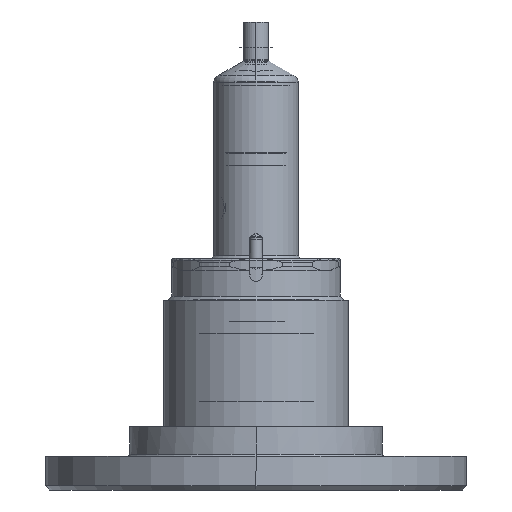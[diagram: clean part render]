
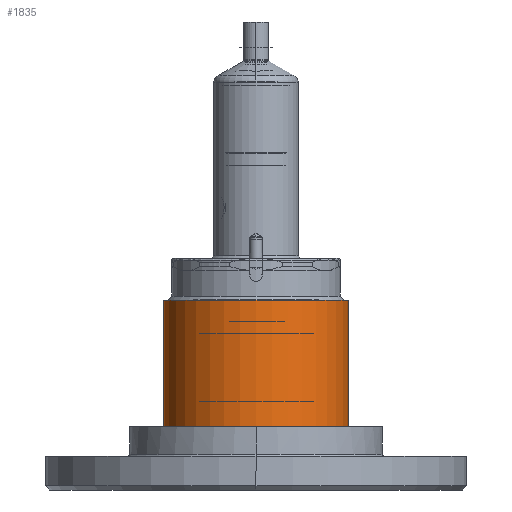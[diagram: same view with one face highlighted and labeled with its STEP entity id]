
A CAD part, front view. The second image highlights one B-rep face of the part: STEP entity #1835.
In plain terms, the highlighted cylindrical face has radius 22 mm (diameter 44 mm), a partial arc.
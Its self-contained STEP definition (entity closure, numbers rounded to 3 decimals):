
#125 = CYLINDRICAL_SURFACE ( 'NONE', #14751, 22. ) ;
#309 = DIRECTION ( 'NONE',  ( 0., 0., 1. ) ) ;
#598 = ORIENTED_EDGE ( 'NONE', *, *, #14994, .F. ) ;
#1673 = CARTESIAN_POINT ( 'NONE',  ( -22., 0., 47.584 ) ) ;
#1835 = ADVANCED_FACE ( 'NONE', ( #6823 ), #125, .T. ) ;
#1847 = EDGE_CURVE ( 'NONE', #6315, #3362, #18291, .T. ) ;
#2058 = DIRECTION ( 'NONE',  ( 1., 0., 0. ) ) ;
#3362 = VERTEX_POINT ( 'NONE', #11502 ) ;
#3529 = AXIS2_PLACEMENT_3D ( 'NONE', #14024, #7993, #2058 ) ;
#4013 = CARTESIAN_POINT ( 'NONE',  ( 0., 0., 30. ) ) ;
#4062 = EDGE_CURVE ( 'NONE', #14630, #3362, #13783, .T. ) ;
#4760 = VECTOR ( 'NONE', #10253, 1000. ) ;
#5045 = CARTESIAN_POINT ( 'NONE',  ( -22., 0., 0. ) ) ;
#6047 = AXIS2_PLACEMENT_3D ( 'NONE', #4013, #6917, #15932 ) ;
#6315 = VERTEX_POINT ( 'NONE', #17145 ) ;
#6823 = FACE_OUTER_BOUND ( 'NONE', #8965, .T. ) ;
#6917 = DIRECTION ( 'NONE',  ( 0., 0., 1. ) ) ;
#7307 = CARTESIAN_POINT ( 'NONE',  ( 22., 0., 47.584 ) ) ;
#7993 = DIRECTION ( 'NONE',  ( 0., 0., 1. ) ) ;
#8432 = CARTESIAN_POINT ( 'NONE',  ( 0., 0., 47.584 ) ) ;
#8502 = VERTEX_POINT ( 'NONE', #5045 ) ;
#8965 = EDGE_LOOP ( 'NONE', ( #598, #9700, #16246, #14459 ) ) ;
#9700 = ORIENTED_EDGE ( 'NONE', *, *, #14643, .T. ) ;
#10125 = DIRECTION ( 'NONE',  ( 0., 0., 1. ) ) ;
#10194 = DIRECTION ( 'NONE',  ( 1., 0., 0. ) ) ;
#10253 = DIRECTION ( 'NONE',  ( 0., 0., 1. ) ) ;
#11292 = CIRCLE ( 'NONE', #3529, 22. ) ;
#11502 = CARTESIAN_POINT ( 'NONE',  ( 22., 0., 30. ) ) ;
#12330 = CARTESIAN_POINT ( 'NONE',  ( -22., 0., 30. ) ) ;
#13627 = LINE ( 'NONE', #1673, #13846 ) ;
#13783 = CIRCLE ( 'NONE', #6047, 22. ) ;
#13846 = VECTOR ( 'NONE', #309, 1000. ) ;
#14024 = CARTESIAN_POINT ( 'NONE',  ( 0., 0., 0. ) ) ;
#14459 = ORIENTED_EDGE ( 'NONE', *, *, #4062, .F. ) ;
#14630 = VERTEX_POINT ( 'NONE', #12330 ) ;
#14643 = EDGE_CURVE ( 'NONE', #8502, #6315, #11292, .T. ) ;
#14751 = AXIS2_PLACEMENT_3D ( 'NONE', #8432, #10125, #10194 ) ;
#14994 = EDGE_CURVE ( 'NONE', #8502, #14630, #13627, .T. ) ;
#15932 = DIRECTION ( 'NONE',  ( 1., 0., 0. ) ) ;
#16246 = ORIENTED_EDGE ( 'NONE', *, *, #1847, .T. ) ;
#17145 = CARTESIAN_POINT ( 'NONE',  ( 22., 0., 0. ) ) ;
#18291 = LINE ( 'NONE', #7307, #4760 ) ;
